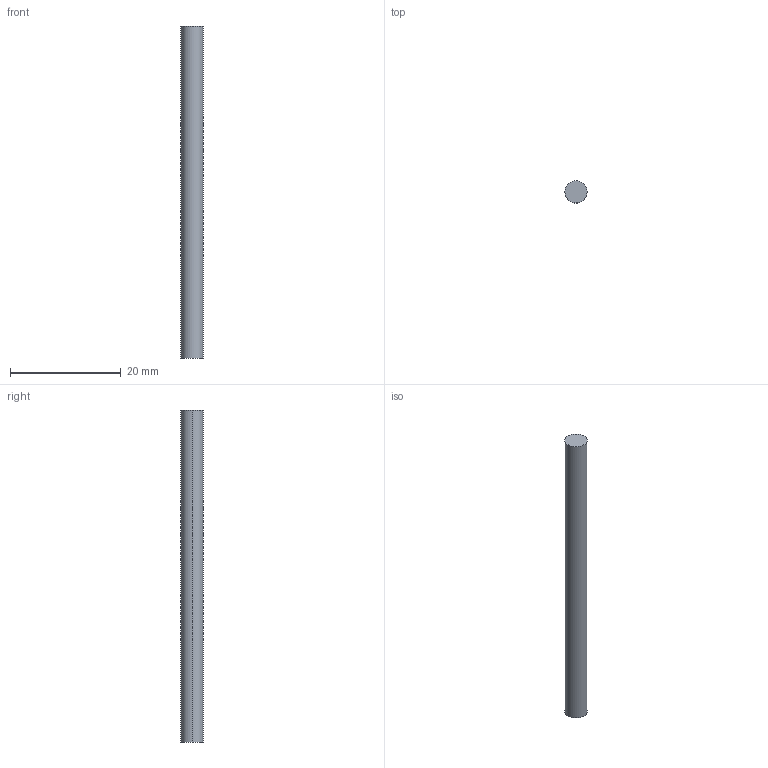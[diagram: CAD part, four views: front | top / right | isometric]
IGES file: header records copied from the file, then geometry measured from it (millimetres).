
Start section: START RECORD GO HERE.
Global section: file name: REA F1 Racing - Axle.igs; native system: IBM CATIA IGES - CATIA Version 5 Release 19 ; preprocessor: CATIA Version 5 Release 19 ; author: Dan; organization: Sol; date: 20110822.171811; units: millimetre
Bounding box: 4 x 4 x 60 mm (x, y, z)
Surface area: 779.1 mm2 (no closed solid volume)
Topology: 0 solids, 0 shells, 4 faces, 12 edges, 12 vertices
Faces by surface type: revolution 2, plane 2
